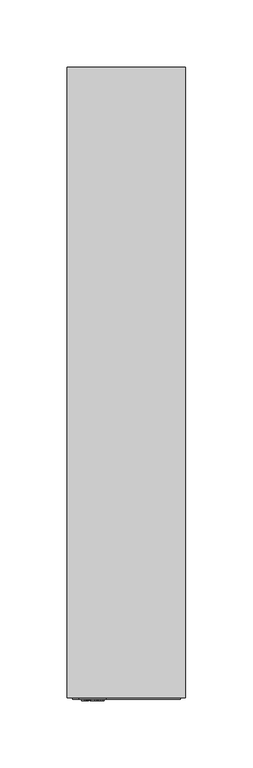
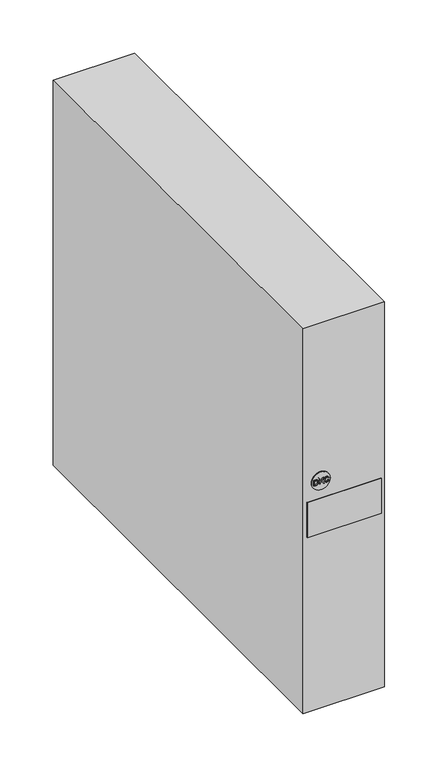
"""IFC4 building model written with IfcOpenShell, lengths in millimetres: proxy geometry, НВО_КНС_ОнлайнИБПSmallRackmount_DKC : 1000 ВА."""

from ifc_helpers import new_model, si_unit, point, frame, frame_2d, origin, origin_with_axes, place, context, project, spatial, polyline, circle_curve, trimmed, segment, composite_curve, outline, extrude, source, transform, mapped, element, save


def electrical_equipment_6d2ac0d9(model_context):
    return source(origin(), model_context, "Body", "SweptSolid", [
        extrude(outline(polyline([(257.0, -33.1463789), (257.0, -30.967046), (257.103007, -29.9980448), (257.9520786, -28.7273804), (258.829845, -28.3153525), (260.0460629, -28.154956), (261.4793312, -28.391872), (262.5094008, -29.1055631), (262.9405585, -29.9914229), (263.0273786, -31.0671099), (263.0273786, -33.1463789), (257.0, -33.1463789)]), holes=[polyline([(257.7534223, -32.3929566), (262.2739563, -32.3929566), (262.2739563, -31.0803536), (262.153291, -30.0120243), (261.4852173, -29.2299072), (260.0578351, -28.9083783), (258.9181367, -29.0724537), (257.8623154, -30.0900153), (257.7534223, -31.0597522), (257.7534223, -32.3929566)])]), frame((0.0, -2.0, 0.0), z_axis=(0.0, 1.0, 0.0), x_axis=(0.0, 0.0, 1.0)), (0.0, 0.0, 1.0), 6.0),
        extrude(outline(polyline([(257.0, -26.7422891), (259.0719114, -26.365578), (260.0401768, -25.3502237), (257.0, -23.0487539), (257.0, -22.1275774), (260.5493255, -24.816059), (263.0273786, -22.2217552), (263.0273786, -23.2753692), (260.076965, -26.365578), (263.0273786, -27.1190003), (257.0, -26.7422891)])), frame((0.0, -2.0, 0.0), z_axis=(0.0, 1.0, 0.0), x_axis=(0.0, 0.0, 1.0)), (0.0, 0.0, 1.0), 6.0),
        extrude(outline(polyline([(259.1425447, -17.3245101), (258.0330126, -17.963889), (257.6592445, -19.1168311), (257.9336845, -20.1564657), (258.7628905, -20.8642706), (260.0607782, -21.0916217), (261.180611, -20.8995873), (262.0458694, -20.2337209), (262.3681341, -19.055027), (262.0775073, -18.0367296), (261.3307068, -16.6652655), (262.652139, -17.5165445), (263.1215564, -19.0255964), (262.7588248, -20.4735799), (261.6971173, -21.4881985), (260.0593067, -21.845044), (258.4479835, -21.5294013), (257.3016632, -20.6096963), (256.9058222, -19.0417832), (257.4289504, -17.4643052), (259.1425447, -17.3245101)])), frame((0.0, -2.0, 0.0), z_axis=(0.0, 1.0, 0.0), x_axis=(0.0, 0.0, 1.0)), (0.0, 0.0, 1.0), 6.0),
        extrude(outline(composite_curve([segment(trimmed(circle_curve(frame_2d((260.0, -25.0)), 10.0), [point((260.0, -35.0))], [point((260.0, -15.0))], False, "CARTESIAN"), True, "CONTINUOUS"), segment(trimmed(circle_curve(frame_2d((260.0, -25.0)), 10.0), [point((260.0, -15.0))], [point((260.0, -35.0))], False, "CARTESIAN"), True, "CONTINUOUS")], self_intersect=False)), frame((0.0, -1.0, 0.0), z_axis=(0.0, 1.0, 0.0), x_axis=(0.0, 0.0, 1.0)), (0.0, 0.0, 1.0), 10.0),
        extrude(outline(polyline([(44.0, 0.0), (-44.0, 0.0), (-44.0, 468.0), (44.0, 468.0), (44.0, 0.0)])), origin_with_axes(), (0.0, 0.0, 1.0), 440.0),
        extrude(outline(polyline([(40.0, -1.0), (-40.0, -1.0), (-40.0, 0.0), (40.0, 0.0), (40.0, -1.0)])), frame((0.0, 0.0, 200.0), z_axis=(0.0, 0.0, 1.0), x_axis=(1.0, 0.0, 0.0)), (0.0, 0.0, 1.0), 40.0),
    ])


if __name__ == "__main__":
    model = new_model("IFC4")
    model_context = context("Model", 3, world=origin())
    ifc_project = project(units=[si_unit("LENGTHUNIT", "METRE", prefix="MILLI")], contexts=[model_context])
    site = spatial("IfcSite", under=ifc_project)
    building = spatial("IfcBuilding", under=site)
    placement = place(None, origin())
    electrical_equipment_shape = electrical_equipment_6d2ac0d9(model_context)
    element("IfcBuildingElementProxy", 1, Name="НВО_КНС_ОнлайнИБПSmallRackmount_DKC : 1000 ВА", ObjectType="НВО_КНС_ОнлайнИБПSmallRackmount_DKC : 1000 ВА", at=placement, inside=building, context=model_context, shape_type="MappedRepresentation", body=[
        mapped(electrical_equipment_shape, transform((0.0, 0.0, 0.0), x_axis=(1.0, 0.0, 0.0), y_axis=(0.0, 1.0, 0.0), z_axis=(0.0, 0.0, 1.0))),
    ])
    save(model, "model.ifc")
